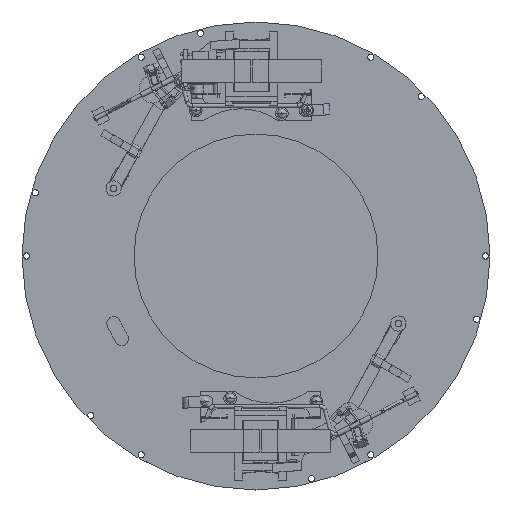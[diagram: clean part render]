
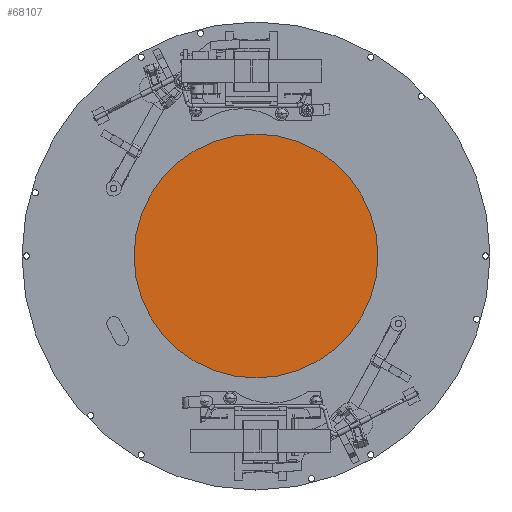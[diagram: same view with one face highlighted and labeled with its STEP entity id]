
A CAD part, top view. The second image highlights one B-rep face of the part: STEP entity #68107.
In plain terms, the highlighted planar face has unit normal (0, 0, 1).
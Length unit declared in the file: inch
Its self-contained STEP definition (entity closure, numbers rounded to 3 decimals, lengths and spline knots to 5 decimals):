
#2749 = CARTESIAN_POINT ( 'NONE',  ( 1.77165, 0., 0. ) ) ;
#2804 = DIRECTION ( 'NONE',  ( 1., 0., 0. ) ) ;
#2805 = DIRECTION ( 'NONE',  ( 0., 0., 1. ) ) ;
#2809 = CARTESIAN_POINT ( 'NONE',  ( -1.77165, 0., 0. ) ) ;
#2818 = CARTESIAN_POINT ( 'NONE',  ( 0., 0., 0. ) ) ;
#2821 = CIRCLE ( 'NONE', #2832, 1.77165 ) ;
#2832 = AXIS2_PLACEMENT_3D ( 'NONE', #2818, #2805, #2804 ) ;
#11081 = VERTEX_POINT ( 'NONE', #2749 ) ;
#11259 = EDGE_CURVE ( 'NONE', #11322, #11081, #2821, .T. ) ;
#11322 = VERTEX_POINT ( 'NONE', #2809 ) ;
#27952 = PLANE ( 'NONE',  #28118 ) ;
#28118 = AXIS2_PLACEMENT_3D ( 'NONE', #28168, #28167, #28166 ) ;
#28127 = FACE_OUTER_BOUND ( 'NONE', #68124, .T. ) ;
#28166 = DIRECTION ( 'NONE',  ( 1., 0., 0. ) ) ;
#28167 = DIRECTION ( 'NONE',  ( 0., 0., 1. ) ) ;
#28168 = CARTESIAN_POINT ( 'NONE',  ( -2.98564, 0.3138, 0. ) ) ;
#53885 = AXIS2_PLACEMENT_3D ( 'NONE', #53952, #53951, #53950 ) ;
#53921 = CIRCLE ( 'NONE', #53885, 1.77165 ) ;
#53950 = DIRECTION ( 'NONE',  ( 1., 0., 0. ) ) ;
#53951 = DIRECTION ( 'NONE',  ( 0., 0., 1. ) ) ;
#53952 = CARTESIAN_POINT ( 'NONE',  ( 0., 0., 0. ) ) ;
#68098 = ORIENTED_EDGE ( 'NONE', *, *, #85488, .T. ) ;
#68107 = ADVANCED_FACE ( 'NONE', ( #28127 ), #27952, .T. ) ;
#68112 = ORIENTED_EDGE ( 'NONE', *, *, #11259, .T. ) ;
#68124 = EDGE_LOOP ( 'NONE', ( #68112, #68098 ) ) ;
#85488 = EDGE_CURVE ( 'NONE', #11081, #11322, #53921, .T. ) ;
